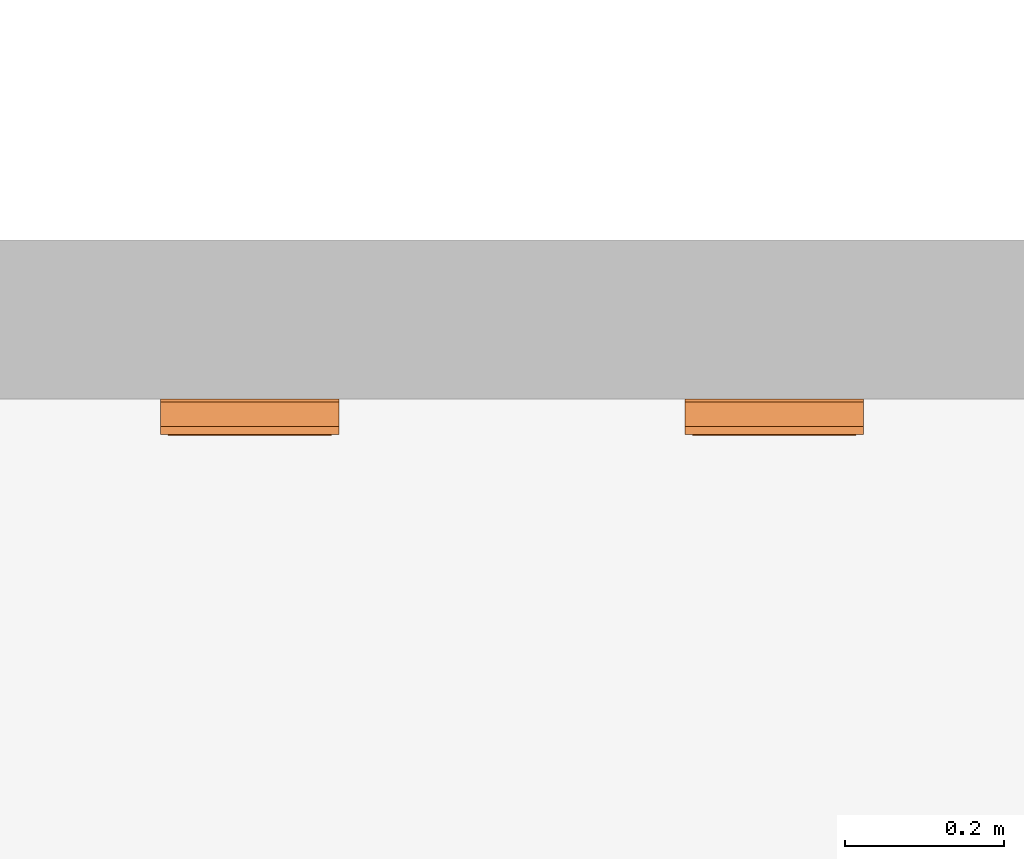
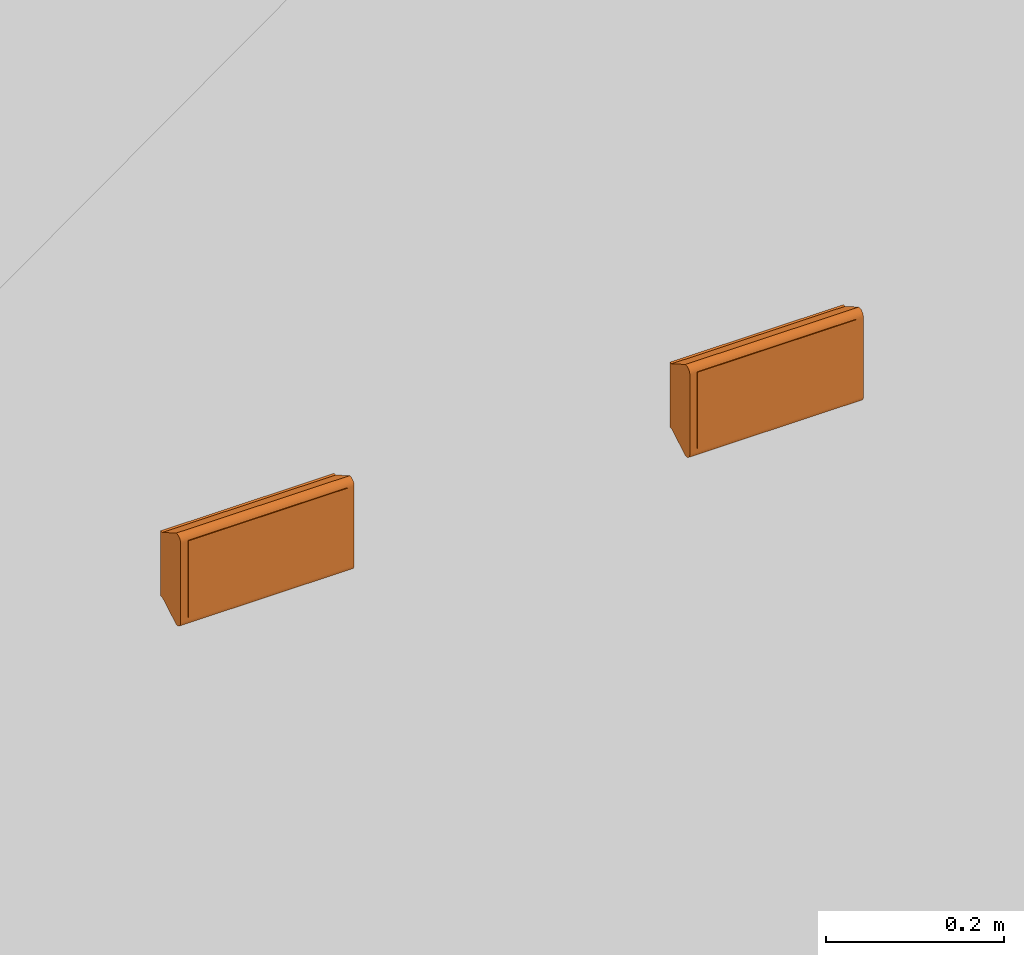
# One storey, part 63 of 197: 2 proxies.
"""IFC2X3 building model written with IfcOpenShell, lengths in metres."""

from ifc_helpers import new_model, entity, si_unit, converted_unit, direction, frame, frame_2d, origin, place, context, subcontext, project, spatial, polyline, circle_curve, parameter, trimmed, segment, composite_curve, outline, extrude, source, transform, mapped, material, material_list, type_object, type_shapes, element, save


model = new_model("IFC2X3")

# Units and contexts
model_context = context("Model", 3, precision=1e-05, world=origin(), true_north=direction((6.123031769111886e-17, 1.0)))
body_context = subcontext(model_context, "Body", "Model", "MODEL_VIEW")
ifc_project = project(units=[si_unit("LENGTHUNIT", "METRE"), converted_unit("PLANEANGLEUNIT", "DEGREE", entity("IfcPlaneAngleMeasure", 0.017453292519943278), si_unit("PLANEANGLEUNIT", "RADIAN"), dimensions=[0, 0, 0, 0, 0, 0, 0]), si_unit("AREAUNIT", "SQUARE_METRE")], contexts=[model_context])

# Site, building, storey
site_placement = place(None, origin())
site = spatial("IfcSite", under=ifc_project, at=site_placement, Name="Default", CompositionType="ELEMENT")
building_placement = place(site_placement, origin())
building = spatial("IfcBuilding", under=site, at=building_placement, CompositionType="ELEMENT")
storey_placement = place(building_placement, origin())
storey = spatial("IfcBuildingStorey", under=building, at=storey_placement, Name="Niveau 0", CompositionType="ELEMENT", Elevation=0.0)

# Proxies
ifc_material_1 = material(Name="BETCE-ETIQUETTE-BLANC")
ifc_material_2 = material(Name="BETCE-ETIQUETTE-VERT 0-193-0")
ifc_material_3 = material(Name="BETCE-VITRE BAES-BLEU")
ifc_material_4 = material(Name="BETCE-ENVELOPPE BAES-BLANC")
ifc_material_list = material_list([ifc_material_1, ifc_material_2, ifc_material_3, ifc_material_4])
building_element_proxy_type_1 = type_object("IfcBuildingElementProxyType", Name="Eclairage de sécurité saillie étanche mur:AMBIANCE", PredefinedType="NOTDEFINED", material=ifc_material_list)
shared_shape_1 = source(origin(), body_context, "Body", "SweptSolid", [
    extrude(outline(polyline([(-0.011070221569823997, -0.058924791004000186), (0.011390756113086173, -0.058924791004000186), (0.05106820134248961, 0.02616376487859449), (0.028800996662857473, 0.026163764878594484), (0.019676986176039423, 0.006597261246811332), (-0.01999752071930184, 0.006597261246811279), (-0.029121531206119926, 0.026163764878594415), (-0.050747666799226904, 0.026163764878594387), (-0.011070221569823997, -0.058924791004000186)]), holes=[polyline([(0.01247382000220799, -0.00884997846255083), (-0.00016026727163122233, -0.03594386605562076), (-0.012794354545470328, -0.008849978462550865), (0.01247382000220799, -0.00884997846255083)])]), frame((-0.0003151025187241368, -0.046, -0.01722681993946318), z_axis=(0.0, 1.0, 0.0), x_axis=(1.0, 0.0, 0.0)), (0.0, 0.0, 1.0), 0.001000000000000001),
    extrude(outline(polyline([(-0.10299999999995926, -0.05249999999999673), (0.10299999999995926, -0.05249999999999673), (0.10299999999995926, 0.05249999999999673), (-0.10299999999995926, 0.05249999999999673), (-0.10299999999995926, -0.05249999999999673)]), holes=[polyline([(-0.011385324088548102, -0.041015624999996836), (-0.05106276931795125, 0.04407293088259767), (-0.029436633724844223, 0.04407293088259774), (-0.020312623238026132, 0.024506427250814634), (0.019361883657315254, 0.02450642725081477), (0.028485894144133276, 0.04407293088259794), (0.050753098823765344, 0.04407293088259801), (0.011075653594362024, -0.041015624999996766), (-0.011385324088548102, -0.041015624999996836)])]), frame((0.0, -0.046, 0.0006823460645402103), z_axis=(0.0, 1.0, 0.0), x_axis=(1.0, 0.0, 0.0)), (0.0, 0.0, 1.0), 0.001000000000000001),
    extrude(outline(polyline([(-0.012634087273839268, -0.00903129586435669), (0.01263408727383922, -0.00903129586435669), (0.0, 0.01806259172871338), (-0.012634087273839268, -0.00903129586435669)])), frame((-0.00047536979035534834, -0.046, 0.0006544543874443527), z_axis=(0.0, 1.0, 0.0), x_axis=(-1.0, 0.0, 0.0)), (0.0, 0.0, 1.0), 0.001000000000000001),
    extrude(outline(composite_curve([segment(trimmed(circle_curve(frame_2d((-0.0020000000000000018, -0.054499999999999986), x_axis=(1.0, 0.0)), 0.008), [parameter(270.0000000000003)], [parameter(3.5622212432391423e-13)], True, "PARAMETER"), True, "CONTINUOUS"), segment(polyline([(0.005999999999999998, -0.05449999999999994), (0.005999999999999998, 0.05450000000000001)]), True, "CONTINUOUS"), segment(trimmed(circle_curve(frame_2d((-0.0020000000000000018, 0.05450000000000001), x_axis=(1.0, 0.0)), 0.008), [parameter(359.9999999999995)], [parameter(89.99999999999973)], True, "PARAMETER"), True, "CONTINUOUS"), segment(polyline([(-0.001999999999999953, 0.06250000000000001), (-0.003999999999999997, 0.06250000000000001)]), True, "CONTINUOUS"), segment(polyline([(-0.003999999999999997, 0.06250000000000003), (-0.003999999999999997, -0.062499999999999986)]), True, "CONTINUOUS"), segment(polyline([(-0.003999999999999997, -0.0625), (-0.0020000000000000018, -0.0625)]), True, "CONTINUOUS")], self_intersect=False)), frame((-0.1125, -0.039, -0.0019999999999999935), z_axis=(1.0, 0.0, 0.0), x_axis=(0.0, -1.0, 0.0)), (0.0, 0.0, 1.0), 0.22499999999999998),
    extrude(outline(polyline([(-0.0625, -0.02205897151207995), (0.0625, -0.02205897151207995), (0.04449999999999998, 0.009117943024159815), (0.04449999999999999, 0.01294102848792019), (-0.04449999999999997, 0.012941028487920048), (-0.04449999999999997, 0.009117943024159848), (-0.0625, -0.02205897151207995)])), frame((-0.1125, -0.012941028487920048, -0.002000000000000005), z_axis=(1.0, 0.0, 0.0), x_axis=(0.0, 0.0, -1.0)), (0.0, 0.0, 1.0), 0.225),
])
type_shapes(building_element_proxy_type_1, [shared_shape_1])
proxy_1_placement = place(storey_placement, frame((-484.4944728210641, 111.79035524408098, 1.0)))
element("IfcBuildingElementProxy", 1, at=proxy_1_placement, inside=storey, type_object=building_element_proxy_type_1, material=ifc_material_list, Name="Eclairage de sécurité saillie étanche mur:AMBIANCE", ObjectType="Eclairage de sécurité saillie étanche mur:AMBIANCE", context=body_context, shape_type="MappedRepresentation", body=[
    mapped(shared_shape_1, transform((0.0, 0.0, 0.0), scale=1.0)),
])
building_element_proxy_type_2 = type_object("IfcBuildingElementProxyType", Name="Eclairage de sécurité saillie étanche mur:SORTIE", PredefinedType="NOTDEFINED", material=ifc_material_list)
shared_shape_2 = source(origin(), body_context, "Body", "SweptSolid", [
    extrude(outline(composite_curve([segment(polyline([(0.024501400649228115, -0.030893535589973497), (0.02450140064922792, -0.050852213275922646)]), True, "CONTINUOUS"), segment(polyline([(0.02450140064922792, -0.050852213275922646), (0.035348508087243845, -0.050852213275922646)]), True, "CONTINUOUS"), segment(trimmed(circle_curve(frame_2d((0.035348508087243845, -0.04217452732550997), x_axis=(1.0, 0.0)), 0.008677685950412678), [parameter(269.99999999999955)], [parameter(359.99999999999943)], True, "PARAMETER"), True, "CONTINUOUS"), segment(polyline([(0.04402619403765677, -0.042174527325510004), (0.04402619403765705, 0.04197629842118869)]), True, "CONTINUOUS"), segment(trimmed(circle_curve(frame_2d((0.03534850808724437, 0.041976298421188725), x_axis=(1.0, 0.0)), 0.008677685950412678), [parameter(359.99999999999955)], [parameter(89.99999999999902)], True, "PARAMETER"), True, "CONTINUOUS"), segment(polyline([(0.03534850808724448, 0.0506539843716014), (0.02450140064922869, 0.050653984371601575)]), True, "CONTINUOUS"), segment(trimmed(circle_curve(frame_2d((0.02450140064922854, 0.038505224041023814), x_axis=(1.0, 0.0)), 0.01214876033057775), [parameter(89.99999999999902)], [parameter(144.29560709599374)], True, "PARAMETER"), True, "CONTINUOUS"), segment(polyline([(0.01463613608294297, 0.045595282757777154), (-0.023825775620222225, -0.029390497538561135)]), True, "CONTINUOUS"), segment(trimmed(circle_curve(frame_2d((-0.026223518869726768, -0.028160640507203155), x_axis=(1.0, 0.0)), 0.00269008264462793), [parameter(180.00000000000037)], [parameter(332.8456810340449)], True, "PARAMETER"), False, "CONTINUOUS"), segment(polyline([(-0.028913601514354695, -0.028160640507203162), (-0.02891360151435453, 0.026356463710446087)]), True, "CONTINUOUS"), segment(trimmed(circle_curve(frame_2d((-0.024574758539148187, 0.026356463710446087), x_axis=(1.0, 0.0)), 0.004338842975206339), [parameter(90.00000000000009)], [parameter(180.00000000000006)], True, "PARAMETER"), False, "CONTINUOUS"), segment(polyline([(-0.024574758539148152, 0.03069530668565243), (-0.024574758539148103, 0.05065398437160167)]), True, "CONTINUOUS"), segment(polyline([(-0.024574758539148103, 0.05065398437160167), (-0.03542186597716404, 0.05065398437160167)]), True, "CONTINUOUS"), segment(trimmed(circle_curve(frame_2d((-0.03542186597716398, 0.041976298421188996), x_axis=(1.0, 0.0)), 0.008677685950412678), [parameter(90.00000000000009)], [parameter(180.00000000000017)], True, "PARAMETER"), True, "CONTINUOUS"), segment(polyline([(-0.044099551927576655, 0.041976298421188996), (-0.04409955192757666, -0.0421745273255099)]), True, "CONTINUOUS"), segment(trimmed(circle_curve(frame_2d((-0.03542186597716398, -0.04217452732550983), x_axis=(1.0, 0.0)), 0.008677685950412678), [parameter(180.00000000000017)], [parameter(269.9999999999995)], True, "PARAMETER"), True, "CONTINUOUS"), segment(polyline([(-0.03542186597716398, -0.050852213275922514), (-0.02457475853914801, -0.050852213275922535)]), True, "CONTINUOUS"), segment(trimmed(circle_curve(frame_2d((-0.02457475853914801, -0.03870345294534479), x_axis=(1.0, 0.0)), 0.01214876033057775), [parameter(269.99999999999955)], [parameter(324.2956070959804)], True, "PARAMETER"), True, "CONTINUOUS"), segment(polyline([(-0.01470949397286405, -0.04579351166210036), (0.024559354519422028, 0.030765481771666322)]), True, "CONTINUOUS"), segment(trimmed(circle_curve(frame_2d((0.026136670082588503, 0.02856971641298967), x_axis=(1.0, 0.0)), 0.0027035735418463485), [parameter(3.5622212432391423e-13)], [parameter(125.69136206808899)], True, "PARAMETER"), False, "CONTINUOUS"), segment(polyline([(0.028840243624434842, 0.028569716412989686), (0.02884024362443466, -0.02655469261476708)]), True, "CONTINUOUS"), segment(trimmed(circle_curve(frame_2d((0.024501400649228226, -0.02655469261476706), x_axis=(1.0, 0.0)), 0.004338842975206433), [parameter(269.9999999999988)], [parameter(1.5266662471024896e-13)], True, "PARAMETER"), False, "CONTINUOUS")], self_intersect=False)), frame((9.911445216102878e-05, -0.045999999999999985, 0.0006356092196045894), z_axis=(0.0, -1.0, 0.0), x_axis=(0.0, 0.0, -1.0)), (0.0, 0.0, -1.0), 0.001000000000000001),
    extrude(outline(polyline([(-0.10299999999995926, -0.05249999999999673), (0.10299999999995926, -0.05249999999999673), (0.10299999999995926, 0.05249999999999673), (-0.10299999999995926, 0.05249999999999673), (-0.10299999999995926, -0.05249999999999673)]), holes=[composite_curve([segment(polyline([(0.04207541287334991, -0.04405281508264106), (-0.04207541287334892, -0.04405281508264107)]), True, "CONTINUOUS"), segment(trimmed(circle_curve(frame_2d((-0.04207541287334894, -0.035375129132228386), x_axis=(0.0, -1.0)), 0.008677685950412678), [parameter(269.9999999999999)], [parameter(1.5266662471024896e-13)], True, "PARAMETER"), False, "CONTINUOUS"), segment(polyline([(-0.050753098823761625, -0.035375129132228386), (-0.050753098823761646, -0.024528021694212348)]), True, "CONTINUOUS"), segment(trimmed(circle_curve(frame_2d((-0.0386043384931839, -0.024528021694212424), x_axis=(0.0, -1.0)), 0.01214876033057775), [parameter(215.70439290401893)], [parameter(269.99999999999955)], True, "PARAMETER"), False, "CONTINUOUS"), segment(polyline([(-0.04569439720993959, -0.014662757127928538), (0.030864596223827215, 0.02460609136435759)]), True, "CONTINUOUS"), segment(trimmed(circle_curve(frame_2d((0.02866883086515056, 0.026183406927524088), x_axis=(0.0, -1.0)), 0.0027035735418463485), [parameter(54.30863793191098)], [parameter(179.99999999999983)], True, "PARAMETER"), True, "CONTINUOUS"), segment(polyline([(0.028668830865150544, 0.028886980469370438), (-0.02645557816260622, 0.028886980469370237)]), True, "CONTINUOUS"), segment(trimmed(circle_curve(frame_2d((-0.02645557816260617, 0.02454813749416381), x_axis=(0.0, -1.0)), 0.004338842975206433), [parameter(180.00000000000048)], [parameter(270.0000000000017)], True, "PARAMETER"), True, "CONTINUOUS"), segment(polyline([(-0.030794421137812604, 0.024548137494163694), (-0.05075309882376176, 0.024548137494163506)]), True, "CONTINUOUS"), segment(polyline([(-0.05075309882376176, 0.024548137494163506), (-0.05075309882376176, 0.03539524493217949)]), True, "CONTINUOUS"), segment(trimmed(circle_curve(frame_2d((-0.04207541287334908, 0.03539524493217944), x_axis=(0.0, -1.0)), 0.008677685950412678), [parameter(180.00000000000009)], [parameter(269.9999999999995)], True, "PARAMETER"), False, "CONTINUOUS"), segment(polyline([(-0.042075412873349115, 0.044072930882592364), (0.04207541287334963, 0.044072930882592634)]), True, "CONTINUOUS"), segment(trimmed(circle_curve(frame_2d((0.042075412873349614, 0.035395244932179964), x_axis=(0.0, -1.0)), 0.008677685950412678), [parameter(90.0000000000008)], [parameter(180.00000000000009)], True, "PARAMETER"), False, "CONTINUOUS"), segment(polyline([(0.05075309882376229, 0.03539524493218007), (0.050753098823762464, 0.0245481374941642)]), True, "CONTINUOUS"), segment(trimmed(circle_curve(frame_2d((0.0386043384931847, 0.024548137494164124), x_axis=(0.0, -1.0)), 0.01214876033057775), [parameter(35.704392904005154)], [parameter(90.00000000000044)], True, "PARAMETER"), False, "CONTINUOUS"), segment(polyline([(0.04569439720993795, 0.014682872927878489), (-0.029291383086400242, -0.023779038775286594)]), True, "CONTINUOUS"), segment(trimmed(circle_curve(frame_2d((-0.028061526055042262, -0.026176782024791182), x_axis=(0.0, -1.0)), 0.00269008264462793), [parameter(207.15431896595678)], [parameter(5.597776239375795e-13)], True, "PARAMETER"), True, "CONTINUOUS"), segment(polyline([(-0.028061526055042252, -0.02886686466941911), (0.026455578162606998, -0.028866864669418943)]), True, "CONTINUOUS"), segment(trimmed(circle_curve(frame_2d((0.02645557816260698, -0.0245280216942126), x_axis=(0.0, -1.0)), 0.004338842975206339), [parameter(2.0355549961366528e-13)], [parameter(90.0000000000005)], True, "PARAMETER"), True, "CONTINUOUS"), segment(polyline([(0.030794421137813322, -0.024528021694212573), (0.05075309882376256, -0.02452802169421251)]), True, "CONTINUOUS"), segment(polyline([(0.05075309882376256, -0.02452802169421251), (0.05075309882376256, -0.03537512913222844)]), True, "CONTINUOUS"), segment(trimmed(circle_curve(frame_2d((0.042075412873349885, -0.035375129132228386), x_axis=(0.0, -1.0)), 0.008677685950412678), [parameter(359.9999999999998)], [parameter(89.99999999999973)], True, "PARAMETER"), False, "CONTINUOUS")], self_intersect=False)]), frame((0.0, -0.046, 0.0006823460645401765), z_axis=(0.0, 1.0, 0.0), x_axis=(1.0, 0.0, 0.0)), (0.0, 0.0, 1.0), 0.001000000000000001),
    extrude(outline(composite_curve([segment(trimmed(circle_curve(frame_2d((-0.0020000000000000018, -0.054499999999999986), x_axis=(1.0, 0.0)), 0.008), [parameter(270.0000000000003)], [parameter(3.5622212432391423e-13)], True, "PARAMETER"), True, "CONTINUOUS"), segment(polyline([(0.005999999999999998, -0.05449999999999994), (0.005999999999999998, 0.05450000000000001)]), True, "CONTINUOUS"), segment(trimmed(circle_curve(frame_2d((-0.0020000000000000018, 0.05450000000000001), x_axis=(1.0, 0.0)), 0.008), [parameter(359.9999999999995)], [parameter(89.99999999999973)], True, "PARAMETER"), True, "CONTINUOUS"), segment(polyline([(-0.001999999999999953, 0.06250000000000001), (-0.003999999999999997, 0.06250000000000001)]), True, "CONTINUOUS"), segment(polyline([(-0.003999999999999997, 0.06250000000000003), (-0.003999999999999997, -0.062499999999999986)]), True, "CONTINUOUS"), segment(polyline([(-0.003999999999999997, -0.0625), (-0.0020000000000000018, -0.0625)]), True, "CONTINUOUS")], self_intersect=False)), frame((-0.1125, -0.039, -0.0019999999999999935), z_axis=(1.0, 0.0, 0.0), x_axis=(0.0, -1.0, 0.0)), (0.0, 0.0, 1.0), 0.22499999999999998),
    extrude(outline(polyline([(-0.0625, -0.02205897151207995), (0.0625, -0.02205897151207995), (0.04449999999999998, 0.009117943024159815), (0.04449999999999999, 0.01294102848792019), (-0.04449999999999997, 0.012941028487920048), (-0.04449999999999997, 0.009117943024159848), (-0.0625, -0.02205897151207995)])), frame((-0.1125, -0.012941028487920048, -0.002000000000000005), z_axis=(1.0, 0.0, 0.0), x_axis=(0.0, 0.0, -1.0)), (0.0, 0.0, 1.0), 0.225),
])
type_shapes(building_element_proxy_type_2, [shared_shape_2])
proxy_2_placement = place(storey_placement, frame((-485.15458824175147, 111.79035524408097, 1.0)))
element("IfcBuildingElementProxy", 2, at=proxy_2_placement, inside=storey, type_object=building_element_proxy_type_2, material=ifc_material_list, Name="Eclairage de sécurité saillie étanche mur:SORTIE", ObjectType="Eclairage de sécurité saillie étanche mur:SORTIE", context=body_context, shape_type="MappedRepresentation", body=[
    mapped(shared_shape_2, transform((0.0, 0.0, 0.0), scale=1.0)),
])

save(model, "model.ifc")
